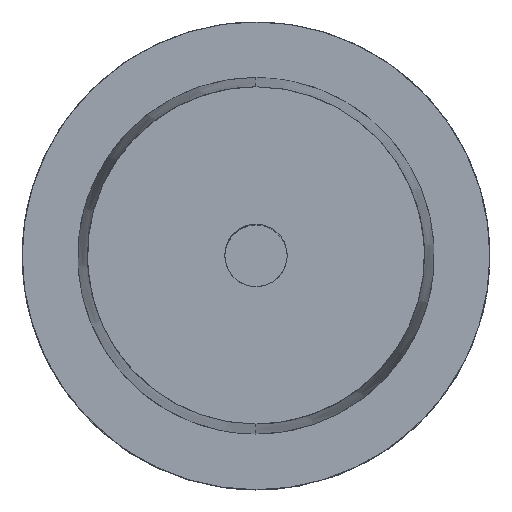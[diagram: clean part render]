
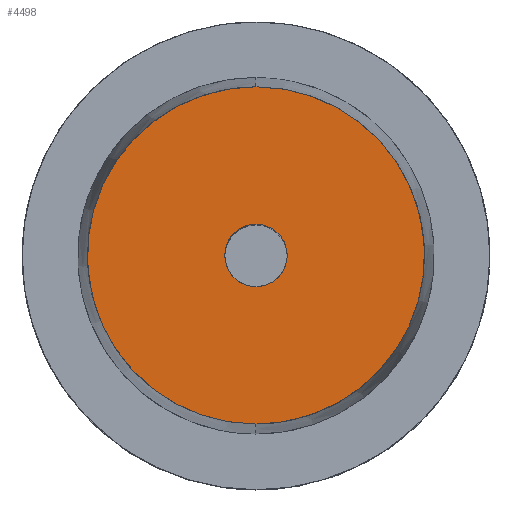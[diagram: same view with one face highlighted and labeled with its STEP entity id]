
A CAD part, top view. The second image highlights one B-rep face of the part: STEP entity #4498.
In plain terms, the highlighted planar face has unit normal (0, 0, -1).
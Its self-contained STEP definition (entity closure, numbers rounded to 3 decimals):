
#4498 = ADVANCED_FACE('',(#4499,#4546),#4515,.T.);
#4499 = FACE_BOUND('',#4500,.T.);
#4500 = EDGE_LOOP('',(#4501,#4528));
#4501 = ORIENTED_EDGE('',*,*,#4502,.T.);
#4502 = EDGE_CURVE('',#4503,#4505,#4507,.T.);
#4503 = VERTEX_POINT('',#4504);
#4504 = CARTESIAN_POINT('',(0.,22.717,32.));
#4505 = VERTEX_POINT('',#4506);
#4506 = CARTESIAN_POINT('',(0.,-22.717,32.));
#4507 = SURFACE_CURVE('',#4508,(#4514),.PCURVE_S1.);
#4508 = ( BOUNDED_CURVE() B_SPLINE_CURVE(2,(#4509,#4510,#4511,#4512,
#4513),.UNSPECIFIED.,.F.,.F.) B_SPLINE_CURVE_WITH_KNOTS((3,2,3),(0.,0.5,
1.),.PIECEWISE_BEZIER_KNOTS.) CURVE() GEOMETRIC_REPRESENTATION_ITEM() 
RATIONAL_B_SPLINE_CURVE((1.,0.707,1.,0.707,1.)) 
REPRESENTATION_ITEM('') );
#4509 = CARTESIAN_POINT('',(0.,22.717,32.));
#4510 = CARTESIAN_POINT('',(22.717,22.717,32.));
#4511 = CARTESIAN_POINT('',(22.717,0.,32.));
#4512 = CARTESIAN_POINT('',(22.717,-22.717,32.));
#4513 = CARTESIAN_POINT('',(0.,-22.717,32.));
#4514 = PCURVE('',#4515,#4520);
#4515 = PLANE('',#4516);
#4516 = AXIS2_PLACEMENT_3D('',#4517,#4518,#4519);
#4517 = CARTESIAN_POINT('',(0.,0.,32.)
  );
#4518 = DIRECTION('',(0.,0.,-1.));
#4519 = DIRECTION('',(0.,1.,0.));
#4520 = DEFINITIONAL_REPRESENTATION('',(#4521),#4527);
#4521 = ( BOUNDED_CURVE() B_SPLINE_CURVE(2,(#4522,#4523,#4524,#4525,
#4526),.UNSPECIFIED.,.F.,.F.) B_SPLINE_CURVE_WITH_KNOTS((3,2,3),(0.,0.5,
1.),.PIECEWISE_BEZIER_KNOTS.) CURVE() GEOMETRIC_REPRESENTATION_ITEM() 
RATIONAL_B_SPLINE_CURVE((1.,0.707,1.,0.707,1.)) 
REPRESENTATION_ITEM('') );
#4522 = CARTESIAN_POINT('',(22.717,0.));
#4523 = CARTESIAN_POINT('',(22.717,22.717));
#4524 = CARTESIAN_POINT('',(0.,22.717));
#4525 = CARTESIAN_POINT('',(-22.717,22.717));
#4526 = CARTESIAN_POINT('',(-22.717,0.));
#4527 = ( GEOMETRIC_REPRESENTATION_CONTEXT(2) 
PARAMETRIC_REPRESENTATION_CONTEXT() REPRESENTATION_CONTEXT('2D SPACE',''
  ) );
#4528 = ORIENTED_EDGE('',*,*,#4529,.T.);
#4529 = EDGE_CURVE('',#4505,#4503,#4530,.T.);
#4530 = SURFACE_CURVE('',#4531,(#4537),.PCURVE_S1.);
#4531 = ( BOUNDED_CURVE() B_SPLINE_CURVE(2,(#4532,#4533,#4534,#4535,
#4536),.UNSPECIFIED.,.F.,.F.) B_SPLINE_CURVE_WITH_KNOTS((3,2,3),(0.,0.5,
1.),.PIECEWISE_BEZIER_KNOTS.) CURVE() GEOMETRIC_REPRESENTATION_ITEM() 
RATIONAL_B_SPLINE_CURVE((1.,0.707,1.,0.707,1.)) 
REPRESENTATION_ITEM('') );
#4532 = CARTESIAN_POINT('',(0.,-22.717,32.));
#4533 = CARTESIAN_POINT('',(-22.717,-22.717,32.));
#4534 = CARTESIAN_POINT('',(-22.717,0.,32.));
#4535 = CARTESIAN_POINT('',(-22.717,22.717,32.));
#4536 = CARTESIAN_POINT('',(0.,22.717,32.));
#4537 = PCURVE('',#4515,#4538);
#4538 = DEFINITIONAL_REPRESENTATION('',(#4539),#4545);
#4539 = ( BOUNDED_CURVE() B_SPLINE_CURVE(2,(#4540,#4541,#4542,#4543,
#4544),.UNSPECIFIED.,.F.,.F.) B_SPLINE_CURVE_WITH_KNOTS((3,2,3),(0.,0.5,
1.),.PIECEWISE_BEZIER_KNOTS.) CURVE() GEOMETRIC_REPRESENTATION_ITEM() 
RATIONAL_B_SPLINE_CURVE((1.,0.707,1.,0.707,1.)) 
REPRESENTATION_ITEM('') );
#4540 = CARTESIAN_POINT('',(-22.717,0.));
#4541 = CARTESIAN_POINT('',(-22.717,-22.717));
#4542 = CARTESIAN_POINT('',(0.,-22.717));
#4543 = CARTESIAN_POINT('',(22.717,-22.717));
#4544 = CARTESIAN_POINT('',(22.717,0.));
#4545 = ( GEOMETRIC_REPRESENTATION_CONTEXT(2) 
PARAMETRIC_REPRESENTATION_CONTEXT() REPRESENTATION_CONTEXT('2D SPACE',''
  ) );
#4546 = FACE_BOUND('',#4547,.T.);
#4547 = EDGE_LOOP('',(#4548,#4570));
#4548 = ORIENTED_EDGE('',*,*,#4549,.T.);
#4549 = EDGE_CURVE('',#4550,#4552,#4554,.T.);
#4550 = VERTEX_POINT('',#4551);
#4551 = CARTESIAN_POINT('',(0.,4.2,32.));
#4552 = VERTEX_POINT('',#4553);
#4553 = CARTESIAN_POINT('',(0.,-4.2,32.));
#4554 = SURFACE_CURVE('',#4555,(#4561),.PCURVE_S1.);
#4555 = ( BOUNDED_CURVE() B_SPLINE_CURVE(2,(#4556,#4557,#4558,#4559,
#4560),.UNSPECIFIED.,.F.,.F.) B_SPLINE_CURVE_WITH_KNOTS((3,2,3),(0.,0.5,
1.),.PIECEWISE_BEZIER_KNOTS.) CURVE() GEOMETRIC_REPRESENTATION_ITEM() 
RATIONAL_B_SPLINE_CURVE((1.,0.707,1.,0.707,1.)) 
REPRESENTATION_ITEM('') );
#4556 = CARTESIAN_POINT('',(0.,4.2,32.));
#4557 = CARTESIAN_POINT('',(-4.2,4.2,32.));
#4558 = CARTESIAN_POINT('',(-4.2,0.,32.));
#4559 = CARTESIAN_POINT('',(-4.2,-4.2,32.));
#4560 = CARTESIAN_POINT('',(0.,-4.2,32.));
#4561 = PCURVE('',#4515,#4562);
#4562 = DEFINITIONAL_REPRESENTATION('',(#4563),#4569);
#4563 = ( BOUNDED_CURVE() B_SPLINE_CURVE(2,(#4564,#4565,#4566,#4567,
#4568),.UNSPECIFIED.,.F.,.F.) B_SPLINE_CURVE_WITH_KNOTS((3,2,3),(0.,0.5,
1.),.PIECEWISE_BEZIER_KNOTS.) CURVE() GEOMETRIC_REPRESENTATION_ITEM() 
RATIONAL_B_SPLINE_CURVE((1.,0.707,1.,0.707,1.)) 
REPRESENTATION_ITEM('') );
#4564 = CARTESIAN_POINT('',(4.2,0.));
#4565 = CARTESIAN_POINT('',(4.2,-4.2));
#4566 = CARTESIAN_POINT('',(0.,-4.2));
#4567 = CARTESIAN_POINT('',(-4.2,-4.2));
#4568 = CARTESIAN_POINT('',(-4.2,0.));
#4569 = ( GEOMETRIC_REPRESENTATION_CONTEXT(2) 
PARAMETRIC_REPRESENTATION_CONTEXT() REPRESENTATION_CONTEXT('2D SPACE',''
  ) );
#4570 = ORIENTED_EDGE('',*,*,#4571,.T.);
#4571 = EDGE_CURVE('',#4552,#4550,#4572,.T.);
#4572 = SURFACE_CURVE('',#4573,(#4579),.PCURVE_S1.);
#4573 = ( BOUNDED_CURVE() B_SPLINE_CURVE(2,(#4574,#4575,#4576,#4577,
#4578),.UNSPECIFIED.,.F.,.F.) B_SPLINE_CURVE_WITH_KNOTS((3,2,3),(0.,0.5,
1.),.PIECEWISE_BEZIER_KNOTS.) CURVE() GEOMETRIC_REPRESENTATION_ITEM() 
RATIONAL_B_SPLINE_CURVE((1.,0.707,1.,0.707,1.)) 
REPRESENTATION_ITEM('') );
#4574 = CARTESIAN_POINT('',(0.,-4.2,32.));
#4575 = CARTESIAN_POINT('',(4.2,-4.2,32.));
#4576 = CARTESIAN_POINT('',(4.2,0.,32.));
#4577 = CARTESIAN_POINT('',(4.2,4.2,32.));
#4578 = CARTESIAN_POINT('',(0.,4.2,32.));
#4579 = PCURVE('',#4515,#4580);
#4580 = DEFINITIONAL_REPRESENTATION('',(#4581),#4587);
#4581 = ( BOUNDED_CURVE() B_SPLINE_CURVE(2,(#4582,#4583,#4584,#4585,
#4586),.UNSPECIFIED.,.F.,.F.) B_SPLINE_CURVE_WITH_KNOTS((3,2,3),(0.,0.5,
1.),.PIECEWISE_BEZIER_KNOTS.) CURVE() GEOMETRIC_REPRESENTATION_ITEM() 
RATIONAL_B_SPLINE_CURVE((1.,0.707,1.,0.707,1.)) 
REPRESENTATION_ITEM('') );
#4582 = CARTESIAN_POINT('',(-4.2,0.));
#4583 = CARTESIAN_POINT('',(-4.2,4.2));
#4584 = CARTESIAN_POINT('',(0.,4.2));
#4585 = CARTESIAN_POINT('',(4.2,4.2));
#4586 = CARTESIAN_POINT('',(4.2,0.));
#4587 = ( GEOMETRIC_REPRESENTATION_CONTEXT(2) 
PARAMETRIC_REPRESENTATION_CONTEXT() REPRESENTATION_CONTEXT('2D SPACE',''
  ) );
